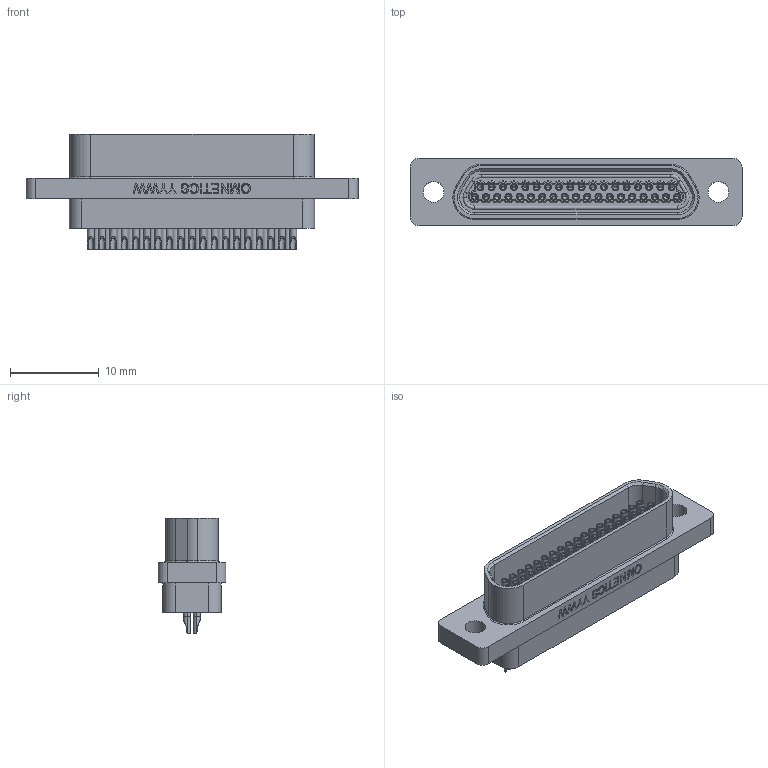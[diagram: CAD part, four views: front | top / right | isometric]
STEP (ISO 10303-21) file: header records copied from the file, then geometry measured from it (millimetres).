
FILE_DESCRIPTION (( 'STEP AP214' ), '1' );
FILE_NAME ('A99000-037 REV C.STEP', '2021-01-20T20:12:21', ( '' ), ( '' ), 'SwSTEP 2.0', 'SolidWorks 2019', '' );
FILE_SCHEMA (( 'AUTOMOTIVE_DESIGN' ));
Length unit declared in the file: inch
Products named in the file (1): A99000-037 REV C
Bounding box: 37.47 x 7.63 x 13.06 mm (x, y, z)
Volume: 1508.2 mm3; surface area: 3346.2 mm2
Topology: 1 solids, 78 shells, 1523 faces, 3460 edges, 2067 vertices
Faces by surface type: cylinder 757, plane 398, torus 161, cone 153, bspline 54
Entity records: 66149 total; most frequent: CARTESIAN_POINT 11879, DIRECTION 7740, ORIENTED_EDGE 6612, EDGE_CURVE 3306, AXIS2_PLACEMENT_3D 3154, VERTEX_POINT 2067, EDGE_LOOP 1805, CIRCLE 1684
